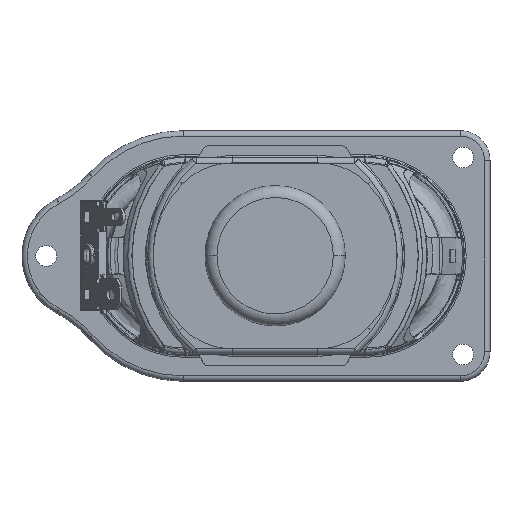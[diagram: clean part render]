
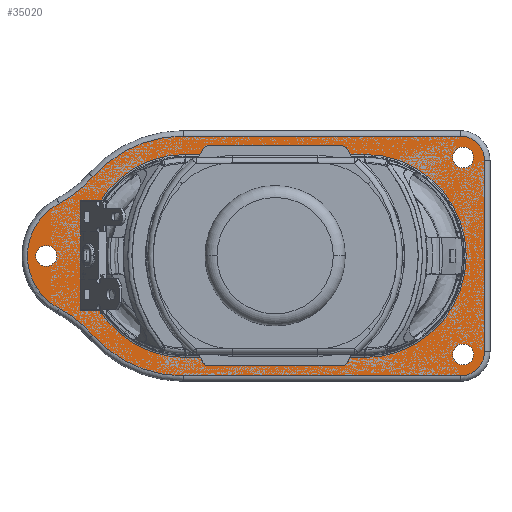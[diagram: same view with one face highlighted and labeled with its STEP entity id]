
A CAD part, top view. The second image highlights one B-rep face of the part: STEP entity #35020.
In plain terms, the highlighted planar face has unit normal (0, 0, 1).
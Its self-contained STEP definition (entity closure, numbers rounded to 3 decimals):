
#28502=CARTESIAN_POINT('',(-45.28,-26.197,0.6));
#28503=DIRECTION('',(0.,0.,1.));
#28504=DIRECTION('',(0.752,0.659,0.));
#28505=AXIS2_PLACEMENT_3D('',#28502,#28503,#28504);
#28510=CARTESIAN_POINT('',(-31.576,0.,0.6));
#28511=DIRECTION('',(0.,0.,-1.));
#28512=DIRECTION('',(-0.464,-0.886,0.));
#28513=AXIS2_PLACEMENT_3D('',#28510,#28511,#28512);
#28518=CARTESIAN_POINT('',(-45.28,26.197,0.6));
#28519=DIRECTION('',(0.,0.,1.));
#28520=DIRECTION('',(0.464,-0.886,0.));
#28521=AXIS2_PLACEMENT_3D('',#28518,#28519,#28520);
#28526=CARTESIAN_POINT('',(-15.415,0.,0.6));
#28527=DIRECTION('',(0.,0.,-1.));
#28528=DIRECTION('',(-0.752,0.659,0.));
#28529=AXIS2_PLACEMENT_3D('',#28526,#28527,#28528);
#28534=CARTESIAN_POINT('',(31.,16.,0.6));
#28535=DIRECTION('',(0.,0.,-1.));
#28536=DIRECTION('',(0.,1.,0.));
#28537=AXIS2_PLACEMENT_3D('',#28534,#28535,#28536);
#28542=CARTESIAN_POINT('',(31.,-16.,0.6));
#28543=DIRECTION('',(0.,0.,-1.));
#28544=DIRECTION('',(1.,0.,0.));
#28545=AXIS2_PLACEMENT_3D('',#28542,#28543,#28544);
#28550=CARTESIAN_POINT('',(-15.415,0.,0.6));
#28551=DIRECTION('',(0.,0.,-1.));
#28552=DIRECTION('',(0.,-1.,0.));
#28553=AXIS2_PLACEMENT_3D('',#28550,#28551,#28552);
#28558=CARTESIAN_POINT('',(31.5,-16.5,0.6));
#28559=DIRECTION('',(0.,0.,1.));
#28560=DIRECTION('',(1.,0.,0.));
#28561=AXIS2_PLACEMENT_3D('',#28558,#28559,#28560);
#28566=CARTESIAN_POINT('',(31.5,-16.5,0.6));
#28567=DIRECTION('',(0.,0.,1.));
#28568=DIRECTION('',(-1.,0.,0.));
#28569=AXIS2_PLACEMENT_3D('',#28566,#28567,#28568);
#28574=CARTESIAN_POINT('',(31.5,16.5,0.6));
#28575=DIRECTION('',(0.,0.,1.));
#28576=DIRECTION('',(1.,0.,0.));
#28577=AXIS2_PLACEMENT_3D('',#28574,#28575,#28576);
#28582=CARTESIAN_POINT('',(31.5,16.5,0.6));
#28583=DIRECTION('',(0.,0.,1.));
#28584=DIRECTION('',(-1.,0.,0.));
#28585=AXIS2_PLACEMENT_3D('',#28582,#28583,#28584);
#28590=CARTESIAN_POINT('',(-38.35,0.,0.6));
#28591=DIRECTION('',(0.,0.,1.));
#28592=DIRECTION('',(-1.,0.,0.));
#28593=AXIS2_PLACEMENT_3D('',#28590,#28591,#28592);
#28598=CARTESIAN_POINT('',(-38.35,0.,0.6));
#28599=DIRECTION('',(0.,0.,1.));
#28600=DIRECTION('',(1.,0.,0.));
#28601=AXIS2_PLACEMENT_3D('',#28598,#28599,#28600);
#28606=CARTESIAN_POINT('',(-15.,0.,0.6));
#28607=DIRECTION('',(0.,0.,1.));
#28608=DIRECTION('',(0.,1.,0.));
#28609=AXIS2_PLACEMENT_3D('',#28606,#28607,#28608);
#28614=CARTESIAN_POINT('',(15.,0.,0.6));
#28615=DIRECTION('',(0.,0.,1.));
#28616=DIRECTION('',(0.,-1.,0.));
#28617=AXIS2_PLACEMENT_3D('',#28614,#28615,#28616);
#28662=DIRECTION('',(1.,0.,0.));
#28663=VECTOR('',#28662,46.415);
#28664=CARTESIAN_POINT('',(-15.415,-20.1,0.6));
#28665=LINE('',#28664,#28663);
#28700=DIRECTION('',(0.,1.,0.));
#28701=VECTOR('',#28700,32.);
#28702=CARTESIAN_POINT('',(35.1,-16.,0.6));
#28703=LINE('',#28702,#28701);
#28840=DIRECTION('',(-1.,0.,0.));
#28841=VECTOR('',#28840,46.415);
#28842=CARTESIAN_POINT('',(31.,20.1,0.6));
#28843=LINE('',#28842,#28841);
#28903=DIRECTION('',(1.,0.,0.));
#28904=VECTOR('',#28903,30.);
#28905=CARTESIAN_POINT('',(-15.,16.75,0.6));
#28906=LINE('',#28905,#28904);
#28957=DIRECTION('',(-1.,0.,0.));
#28958=VECTOR('',#28957,30.);
#28959=CARTESIAN_POINT('',(15.,-16.75,0.6));
#28960=LINE('',#28959,#28958);
#33928=CARTESIAN_POINT('',(31.,20.1,0.6));
#33929=CARTESIAN_POINT('',(35.1,16.,0.6));
#33930=VERTEX_POINT('',#33928);
#33931=VERTEX_POINT('',#33929);
#33932=CARTESIAN_POINT('',(-30.525,-13.255,0.6));
#33933=CARTESIAN_POINT('',(-36.183,-8.806,0.6));
#33934=VERTEX_POINT('',#33932);
#33935=VERTEX_POINT('',#33933);
#33936=CARTESIAN_POINT('',(-36.183,8.806,0.6));
#33937=VERTEX_POINT('',#33936);
#33938=CARTESIAN_POINT('',(-30.525,13.255,0.6));
#33939=VERTEX_POINT('',#33938);
#33940=CARTESIAN_POINT('',(-15.415,20.1,0.6));
#33941=VERTEX_POINT('',#33940);
#33942=CARTESIAN_POINT('',(35.1,-16.,0.6));
#33943=VERTEX_POINT('',#33942);
#33944=CARTESIAN_POINT('',(31.,-20.1,0.6));
#33945=VERTEX_POINT('',#33944);
#33946=CARTESIAN_POINT('',(-15.415,-20.1,0.6));
#33947=VERTEX_POINT('',#33946);
#33948=CARTESIAN_POINT('',(33.25,-16.5,0.6));
#33949=CARTESIAN_POINT('',(29.75,-16.5,0.6));
#33950=VERTEX_POINT('',#33948);
#33951=VERTEX_POINT('',#33949);
#33952=CARTESIAN_POINT('',(33.25,16.5,0.6));
#33953=CARTESIAN_POINT('',(29.75,16.5,0.6));
#33954=VERTEX_POINT('',#33952);
#33955=VERTEX_POINT('',#33953);
#33956=CARTESIAN_POINT('',(-40.1,0.,0.6));
#33957=CARTESIAN_POINT('',(-36.6,0.,0.6));
#33958=VERTEX_POINT('',#33956);
#33959=VERTEX_POINT('',#33957);
#33960=CARTESIAN_POINT('',(-15.,16.75,0.6));
#33961=CARTESIAN_POINT('',(15.,16.75,0.6));
#33962=VERTEX_POINT('',#33960);
#33963=VERTEX_POINT('',#33961);
#33964=CARTESIAN_POINT('',(-15.,-16.75,0.6));
#33965=VERTEX_POINT('',#33964);
#33966=CARTESIAN_POINT('',(15.,-16.75,0.6));
#33967=VERTEX_POINT('',#33966);
#34966=CARTESIAN_POINT('',(0.,0.,0.6));
#34967=DIRECTION('',(0.,0.,1.));
#34968=DIRECTION('',(1.,0.,0.));
#34969=AXIS2_PLACEMENT_3D('',#34966,#34967,#34968);
#34970=PLANE('',#34969);
#34972=ORIENTED_EDGE('',*,*,#34971,.T.);
#34974=ORIENTED_EDGE('',*,*,#34973,.T.);
#34976=ORIENTED_EDGE('',*,*,#34975,.T.);
#34978=ORIENTED_EDGE('',*,*,#34977,.T.);
#34980=ORIENTED_EDGE('',*,*,#34979,.F.);
#34981=ORIENTED_EDGE('',*,*,#34956,.T.);
#34983=ORIENTED_EDGE('',*,*,#34982,.F.);
#34985=ORIENTED_EDGE('',*,*,#34984,.T.);
#34987=ORIENTED_EDGE('',*,*,#34986,.F.);
#34989=ORIENTED_EDGE('',*,*,#34988,.T.);
#34990=EDGE_LOOP('',(#34972,#34974,#34976,#34978,#34980,#34981,#34983,#34985,
#34987,#34989));
#34991=FACE_OUTER_BOUND('',#34990,.F.);
#34993=ORIENTED_EDGE('',*,*,#34992,.T.);
#34995=ORIENTED_EDGE('',*,*,#34994,.T.);
#34996=EDGE_LOOP('',(#34993,#34995));
#34997=FACE_BOUND('',#34996,.F.);
#34999=ORIENTED_EDGE('',*,*,#34998,.T.);
#35001=ORIENTED_EDGE('',*,*,#35000,.T.);
#35002=EDGE_LOOP('',(#34999,#35001));
#35003=FACE_BOUND('',#35002,.F.);
#35005=ORIENTED_EDGE('',*,*,#35004,.T.);
#35007=ORIENTED_EDGE('',*,*,#35006,.T.);
#35008=EDGE_LOOP('',(#35005,#35007));
#35009=FACE_BOUND('',#35008,.F.);
#35011=ORIENTED_EDGE('',*,*,#35010,.F.);
#35013=ORIENTED_EDGE('',*,*,#35012,.T.);
#35015=ORIENTED_EDGE('',*,*,#35014,.F.);
#35017=ORIENTED_EDGE('',*,*,#35016,.T.);
#35018=EDGE_LOOP('',(#35011,#35013,#35015,#35017));
#35019=FACE_BOUND('',#35018,.F.);
#35020=ADVANCED_FACE('',(#34991,#34997,#35003,#35009,#35019),#34970,.T.);
#28506=CIRCLE('',#28505,19.626);
#28514=CIRCLE('',#28513,9.938);
#28522=CIRCLE('',#28521,19.626);
#28530=CIRCLE('',#28529,20.1);
#28538=CIRCLE('',#28537,4.1);
#28546=CIRCLE('',#28545,4.1);
#28554=CIRCLE('',#28553,20.1);
#28562=CIRCLE('',#28561,1.75);
#28570=CIRCLE('',#28569,1.75);
#28578=CIRCLE('',#28577,1.75);
#28586=CIRCLE('',#28585,1.75);
#28594=CIRCLE('',#28593,1.75);
#28602=CIRCLE('',#28601,1.75);
#28610=CIRCLE('',#28609,16.75);
#28618=CIRCLE('',#28617,16.75);
#34956=EDGE_CURVE('',#33930,#33931,#28538,.T.);
#34971=EDGE_CURVE('',#33934,#33935,#28506,.T.);
#34973=EDGE_CURVE('',#33935,#33937,#28514,.T.);
#34975=EDGE_CURVE('',#33937,#33939,#28522,.T.);
#34977=EDGE_CURVE('',#33939,#33941,#28530,.T.);
#34979=EDGE_CURVE('',#33930,#33941,#28843,.T.);
#34982=EDGE_CURVE('',#33943,#33931,#28703,.T.);
#34984=EDGE_CURVE('',#33943,#33945,#28546,.T.);
#34986=EDGE_CURVE('',#33947,#33945,#28665,.T.);
#34988=EDGE_CURVE('',#33947,#33934,#28554,.T.);
#34992=EDGE_CURVE('',#33950,#33951,#28562,.T.);
#34994=EDGE_CURVE('',#33951,#33950,#28570,.T.);
#34998=EDGE_CURVE('',#33954,#33955,#28578,.T.);
#35000=EDGE_CURVE('',#33955,#33954,#28586,.T.);
#35004=EDGE_CURVE('',#33958,#33959,#28594,.T.);
#35006=EDGE_CURVE('',#33959,#33958,#28602,.T.);
#35010=EDGE_CURVE('',#33962,#33963,#28906,.T.);
#35012=EDGE_CURVE('',#33962,#33965,#28610,.T.);
#35014=EDGE_CURVE('',#33967,#33965,#28960,.T.);
#35016=EDGE_CURVE('',#33967,#33963,#28618,.T.);
